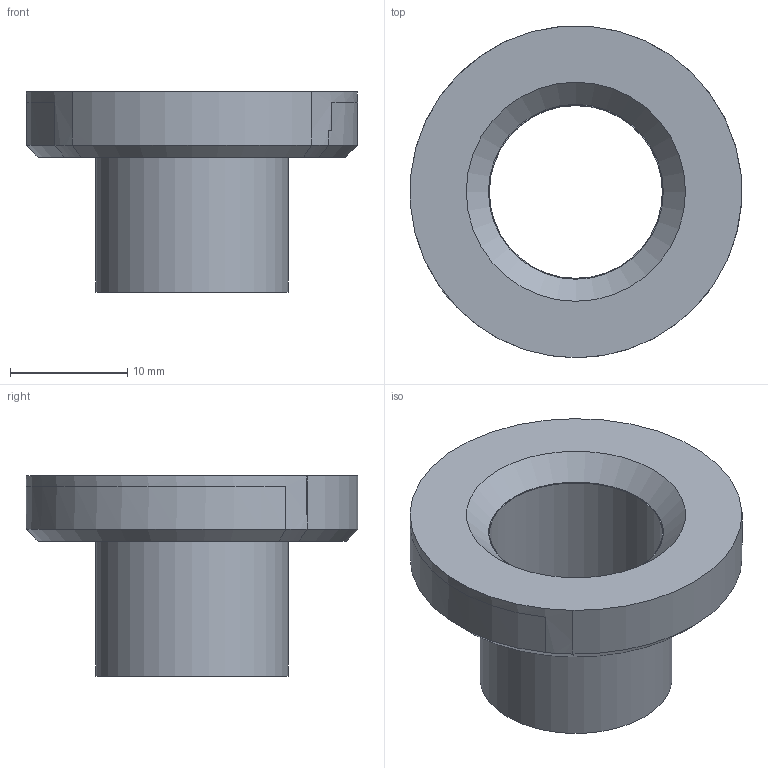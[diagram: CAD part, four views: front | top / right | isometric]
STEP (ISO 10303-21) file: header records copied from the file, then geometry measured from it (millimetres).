
FILE_DESCRIPTION(/* description */ (''),/* implementation_level */ '2;1');
FILE_NAME(/* name */ 'C:/Users/chadm/OneDrive/Documents/3D Printing/~Others/FGC-9/AdaptToShuty/FGC_GlonkBrrlAdapt/RetainerInset_Glockadapted.step',/* time_stamp */ '2020-05-14T14:21:06-05:00',/* author */ (''),/* organization */ (''),/* preprocessor_version */ 'ST-DEVELOPER v18.1',/* originating_system */ 'Autodesk Translation Framework v9.3.0.1241',/* authorisation */ '');
FILE_SCHEMA (('AUTOMOTIVE_DESIGN { 1 0 10303 214 3 1 1 }'));
Length unit declared in the file: millimetre
Products named in the file (1): FusionComponent
Bounding box: 28.24 x 28.27 x 17.06 mm (x, y, z)
Volume: 2870.2 mm3; surface area: 2753.3 mm2
Topology: 1 solids, 1 shells, 27 faces, 65 edges, 43 vertices
Faces by surface type: plane 16, cylinder 6, cone 5
Full cylindrical faces by diameter (mm): 14.75 x1, 14.9 x1, 16.4 x1
Entity records: 850 total; most frequent: CARTESIAN_POINT 150, DIRECTION 139, ORIENTED_EDGE 136, EDGE_CURVE 68, AXIS2_PLACEMENT_3D 47, VERTEX_POINT 46, LINE 45, VECTOR 45
